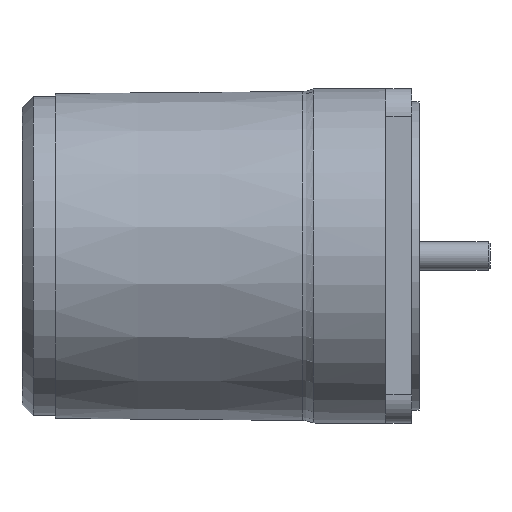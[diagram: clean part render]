
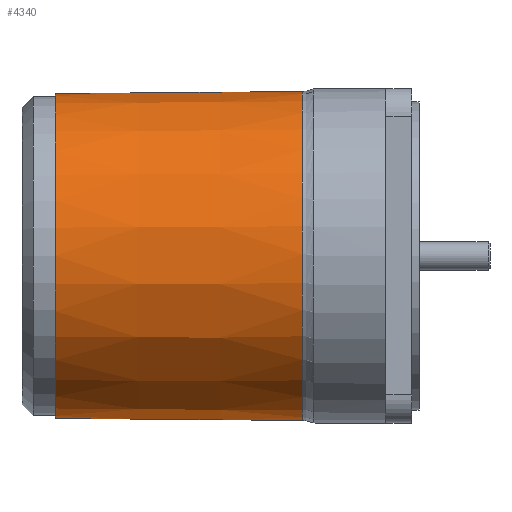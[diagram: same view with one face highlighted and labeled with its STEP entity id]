
A CAD part, top view. The second image highlights one B-rep face of the part: STEP entity #4340.
In plain terms, the highlighted conical face has half-angle 0.48 degrees and reference radius 44.029 mm.
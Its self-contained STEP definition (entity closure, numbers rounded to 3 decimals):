
#276=FACE_BOUND('',#1336,.T.);
#881=CONICAL_SURFACE('',#4768,44.029,0.48);
#1063=FACE_OUTER_BOUND('',#1335,.T.);
#1335=EDGE_LOOP('',(#3681,#3682,#3683,#3684,#3685,#3686));
#1336=EDGE_LOOP('',(#3687));
#1575=CIRCLE('',#4751,43.75);
#1585=CIRCLE('',#4767,44.308);
#1586=CIRCLE('',#4769,44.031);
#1704=B_SPLINE_CURVE_WITH_KNOTS('',3,(#7892,#7893,#7894,#7895),
 .UNSPECIFIED.,.F.,.F.,(4,4),(3.648,3.698),
 .UNSPECIFIED.);
#1705=B_SPLINE_CURVE_WITH_KNOTS('',3,(#7896,#7897,#7898,#7899),
 .UNSPECIFIED.,.F.,.F.,(4,4),(-6.954,-3.698),
 .UNSPECIFIED.);
#1706=B_SPLINE_CURVE_WITH_KNOTS('',3,(#7901,#7902,#7903,#7904),
 .UNSPECIFIED.,.F.,.F.,(4,4),(-3.256,0.),.UNSPECIFIED.);
#1707=B_SPLINE_CURVE_WITH_KNOTS('',3,(#7906,#7907,#7908,#7909),
 .UNSPECIFIED.,.F.,.F.,(4,4),(3.256,3.306),
 .UNSPECIFIED.);
#2020=VERTEX_POINT('',#7768);
#2031=VERTEX_POINT('',#7829);
#2043=VERTEX_POINT('',#7882);
#2044=VERTEX_POINT('',#7890);
#2045=VERTEX_POINT('',#7891);
#2046=VERTEX_POINT('',#7900);
#2047=VERTEX_POINT('',#7905);
#2583=EDGE_CURVE('',#2020,#2020,#1575,.T.);
#2609=EDGE_CURVE('',#2031,#2043,#1585,.T.);
#2610=EDGE_CURVE('',#2044,#2045,#1704,.T.);
#2611=EDGE_CURVE('',#2043,#2045,#1705,.T.);
#2612=EDGE_CURVE('',#2046,#2031,#1706,.T.);
#2613=EDGE_CURVE('',#2046,#2047,#1707,.T.);
#2614=EDGE_CURVE('',#2044,#2047,#1586,.T.);
#3681=ORIENTED_EDGE('',*,*,#2610,.T.);
#3682=ORIENTED_EDGE('',*,*,#2611,.F.);
#3683=ORIENTED_EDGE('',*,*,#2609,.F.);
#3684=ORIENTED_EDGE('',*,*,#2612,.F.);
#3685=ORIENTED_EDGE('',*,*,#2613,.T.);
#3686=ORIENTED_EDGE('',*,*,#2614,.F.);
#3687=ORIENTED_EDGE('',*,*,#2583,.T.);
#4340=ADVANCED_FACE('',(#1063,#276),#881,.T.);
#4751=AXIS2_PLACEMENT_3D('',#7769,#5756,#5757);
#4767=AXIS2_PLACEMENT_3D('',#7888,#5795,#5796);
#4768=AXIS2_PLACEMENT_3D('',#7889,#5797,#5798);
#4769=AXIS2_PLACEMENT_3D('',#7910,#5799,#5800);
#5756=DIRECTION('center_axis',(1.,0.,0.));
#5757=DIRECTION('ref_axis',(0.,1.,0.));
#5795=DIRECTION('center_axis',(1.,0.,0.));
#5796=DIRECTION('ref_axis',(0.,1.,0.));
#5797=DIRECTION('center_axis',(1.,0.,0.));
#5798=DIRECTION('ref_axis',(0.,1.,0.));
#5799=DIRECTION('center_axis',(1.,0.,0.));
#5800=DIRECTION('ref_axis',(0.,0.,-1.));
#7768=CARTESIAN_POINT('',(9.,43.75,0.));
#7769=CARTESIAN_POINT('Origin',(9.,0.,0.));
#7829=CARTESIAN_POINT('',(75.559,29.222,-33.306));
#7882=CARTESIAN_POINT('',(75.559,-29.222,-33.306));
#7888=CARTESIAN_POINT('Origin',(75.559,0.,0.));
#7889=CARTESIAN_POINT('Origin',(42.279,0.,
0.));
#7890=CARTESIAN_POINT('',(42.504,-29.21,-32.947));
#7891=CARTESIAN_POINT('',(43.,-29.21,-32.952));
#7892=CARTESIAN_POINT('Ctrl Pts',(42.504,-29.21,-32.947));
#7893=CARTESIAN_POINT('Ctrl Pts',(42.669,-29.21,-32.949));
#7894=CARTESIAN_POINT('Ctrl Pts',(42.835,-29.21,-32.95));
#7895=CARTESIAN_POINT('Ctrl Pts',(43.,-29.21,-32.952));
#7896=CARTESIAN_POINT('Ctrl Pts',(75.559,-29.222,-33.306));
#7897=CARTESIAN_POINT('Ctrl Pts',(64.706,-29.218,-33.188));
#7898=CARTESIAN_POINT('Ctrl Pts',(53.853,-29.214,-33.07));
#7899=CARTESIAN_POINT('Ctrl Pts',(43.,-29.21,-32.952));
#7900=CARTESIAN_POINT('',(43.,29.21,-32.952));
#7901=CARTESIAN_POINT('Ctrl Pts',(43.,29.21,-32.952));
#7902=CARTESIAN_POINT('Ctrl Pts',(53.853,29.214,-33.07));
#7903=CARTESIAN_POINT('Ctrl Pts',(64.706,29.218,-33.188));
#7904=CARTESIAN_POINT('Ctrl Pts',(75.559,29.222,-33.306));
#7905=CARTESIAN_POINT('',(42.504,29.21,-32.947));
#7906=CARTESIAN_POINT('Ctrl Pts',(43.,29.21,-32.952));
#7907=CARTESIAN_POINT('Ctrl Pts',(42.835,29.21,-32.95));
#7908=CARTESIAN_POINT('Ctrl Pts',(42.669,29.21,-32.949));
#7909=CARTESIAN_POINT('Ctrl Pts',(42.504,29.21,-32.947));
#7910=CARTESIAN_POINT('Origin',(42.504,0.,0.));
